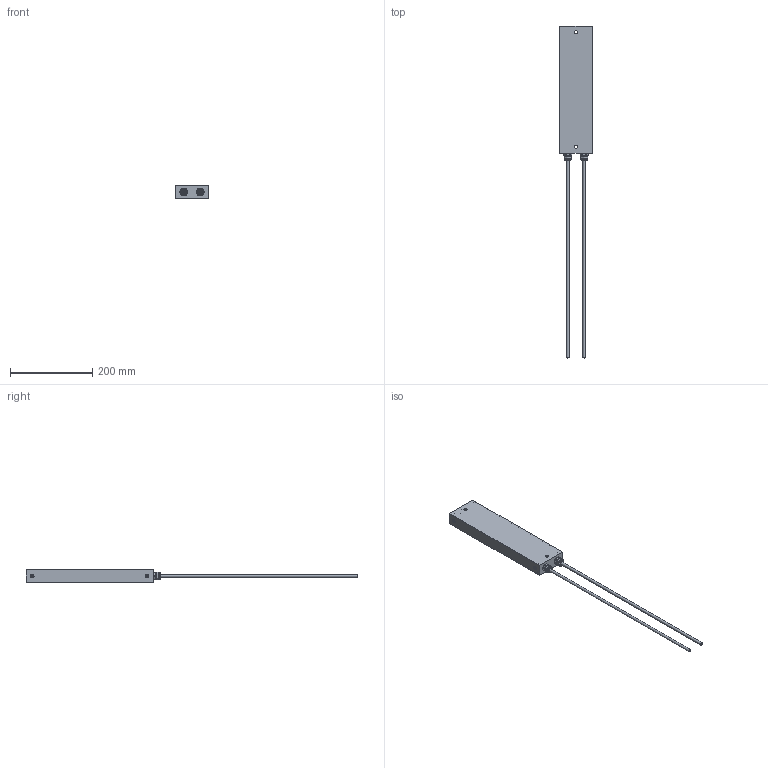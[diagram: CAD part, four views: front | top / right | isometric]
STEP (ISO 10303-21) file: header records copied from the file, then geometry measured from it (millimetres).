
FILE_DESCRIPTION(/* description */ (''),/* implementation_level */ '2;1');
FILE_NAME(/* name */ 'C:\_Vault\Dati\CATALOGO\RFK\Disegni catalogo\RFK 800.stp',/* time_stamp */ '2018-01-31T09:06:40+01:00',/* author */ ('Diego'),/* organization */ ('Fairfild Srl'),/* preprocessor_version */ 'ST-DEVELOPER v16.5',/* originating_system */ 'Autodesk Inventor 2017',/* authorisation */ '');
FILE_SCHEMA (('CONFIG_CONTROL_DESIGN'));
Length unit declared in the file: millimetre
Products named in the file (1): RFK 800
Bounding box: 80 x 809.5 x 30 mm (x, y, z)
Volume: 1306584.5 mm3; surface area: 942871.4 mm2
Topology: 3 solids, 11 shells, 300 faces, 746 edges, 474 vertices
Faces by surface type: plane 140, cone 78, cylinder 58, torus 24
Full cylindrical faces by diameter (mm): 1.5 x2, 3.9 x4, 4.2 x4, 6.3 x4, 7 x4, 7.5 x5, 7.74 x4, 8 x1, 9.6 x2, 9.8 x2, 11 x2, 11.6 x2, 13 x2, 13.86 x2, 15.2 x2, 17 x4
Entity records: 8634 total; most frequent: CARTESIAN_POINT 1849, DIRECTION 1342, ORIENTED_EDGE 1272, EDGE_CURVE 632, AXIS2_PLACEMENT_3D 561, VERTEX_POINT 436, EDGE_LOOP 412, STYLED_ITEM 301
